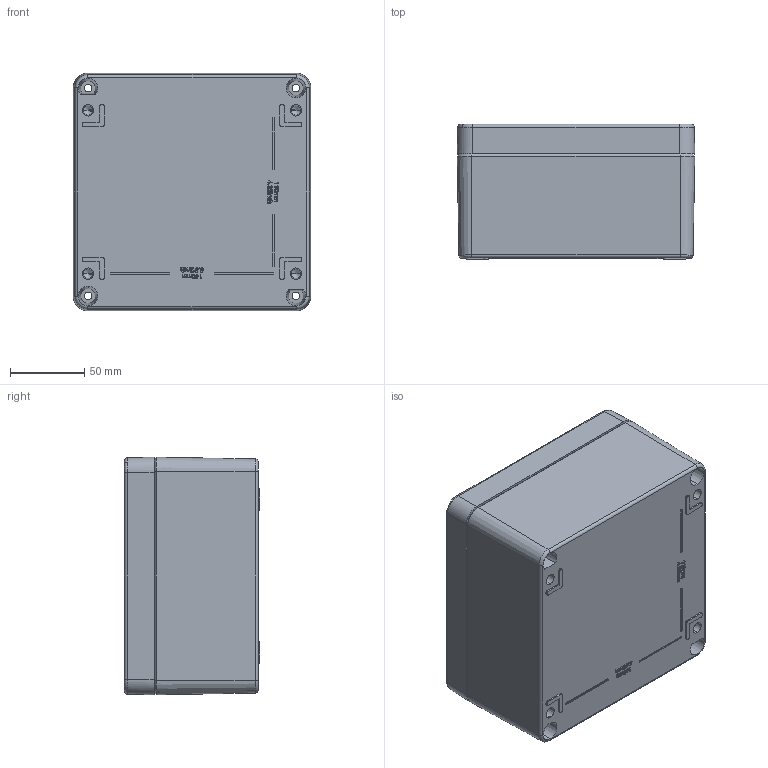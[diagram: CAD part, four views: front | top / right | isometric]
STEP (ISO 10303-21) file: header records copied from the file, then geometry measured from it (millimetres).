
FILE_DESCRIPTION (( 'STEP AP203' ), '1' );
FILE_NAME ('BB071.STEP', '2024-12-26T16:42:08', ( '' ), ( '' ), 'SwSTEP 2.0', 'SolidWorks 2019', '' );
FILE_SCHEMA (( 'CONFIG_CONTROL_DESIGN' ));
Length unit declared in the file: millimetre
Products named in the file (3): BB071; LID 160X160X91; Base 160X160X91
Assembly tree (2 placements, depth 2):
  BB071
    Base 160X160X91
    LID 160X160X91
Bounding box: 160 x 91 x 160 mm (x, y, z)
Volume: 564685.5 mm3; surface area: 227625.2 mm2
Topology: 2 solids, 2 shells, 1512 faces, 3991 edges, 2599 vertices
Faces by surface type: plane 693, bspline 452, cylinder 200, cone 163, torus 4
Entity records: 80221 total; most frequent: CARTESIAN_POINT 45337, ORIENTED_EDGE 7950, DIRECTION 5760, EDGE_CURVE 3975, VERTEX_POINT 2599, VECTOR 2382, LINE 2382, AXIS2_PLACEMENT_3D 1689
